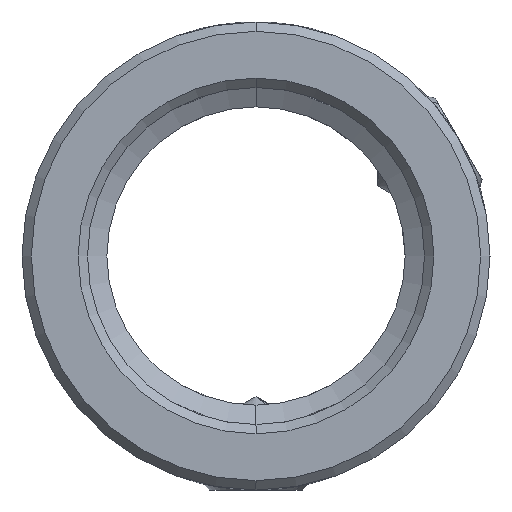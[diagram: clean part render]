
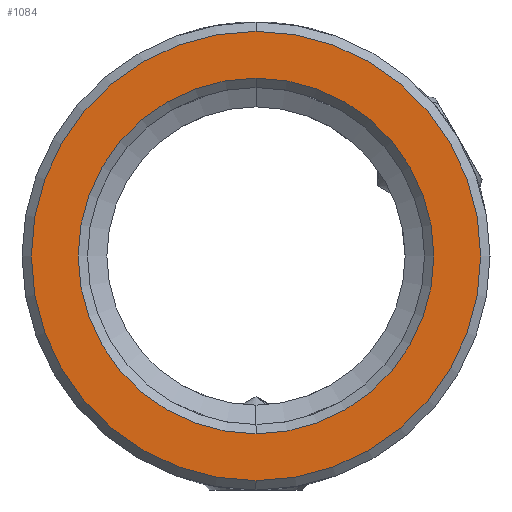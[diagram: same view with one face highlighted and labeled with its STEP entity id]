
A CAD part, left-side view. The second image highlights one B-rep face of the part: STEP entity #1084.
In plain terms, the highlighted planar face has unit normal (-1, 0, 0).
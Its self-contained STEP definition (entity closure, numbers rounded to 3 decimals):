
#949=AXIS2_PLACEMENT_3D('Circle Axis2P3D',#947,#948,$) ;
#1006=AXIS2_PLACEMENT_3D('Circle Axis2P3D',#1004,#1005,$) ;
#1060=AXIS2_PLACEMENT_3D('Plane Axis2P3D',#1057,#1058,#1059) ;
#1064=AXIS2_PLACEMENT_3D('Circle Axis2P3D',#1062,#1063,$) ;
#1073=AXIS2_PLACEMENT_3D('Circle Axis2P3D',#1071,#1072,$) ;
#944=CARTESIAN_POINT('Vertex',(0.,0.,-9.5)) ;
#947=CARTESIAN_POINT('Axis2P3D Location',(0.,0.,0.)) ;
#951=CARTESIAN_POINT('Vertex',(0.,0.,9.5)) ;
#1004=CARTESIAN_POINT('Axis2P3D Location',(0.,0.,0.)) ;
#1057=CARTESIAN_POINT('Axis2P3D Location',(0.,0.,9.)) ;
#1062=CARTESIAN_POINT('Axis2P3D Location',(0.,0.,0.)) ;
#1066=CARTESIAN_POINT('Vertex',(0.,0.,12.)) ;
#1068=CARTESIAN_POINT('Vertex',(0.,0.,-12.)) ;
#1071=CARTESIAN_POINT('Axis2P3D Location',(0.,0.,0.)) ;
#948=DIRECTION('Axis2P3D Direction',(-1.,0.,0.)) ;
#1005=DIRECTION('Axis2P3D Direction',(-1.,0.,0.)) ;
#1058=DIRECTION('Axis2P3D Direction',(-1.,0.,0.)) ;
#1059=DIRECTION('Axis2P3D XDirection',(0.,1.,0.)) ;
#1063=DIRECTION('Axis2P3D Direction',(-1.,0.,0.)) ;
#1072=DIRECTION('Axis2P3D Direction',(-1.,0.,0.)) ;
#1077=ORIENTED_EDGE('',*,*,#1070,.T.) ;
#1078=ORIENTED_EDGE('',*,*,#1075,.T.) ;
#1081=ORIENTED_EDGE('',*,*,#1008,.F.) ;
#1082=ORIENTED_EDGE('',*,*,#953,.F.) ;
#1083=FACE_BOUND('',#1080,.T.) ;
#1084=ADVANCED_FACE('\X2\FF8AFF9FFF70FF82\X0\ \X2\FF8EFF9EFF83FF9EFF68FF70\X0\',(#1079,#1083),#1061,.T.) ;
#950=CIRCLE('generated circle',#949,9.5) ;
#1007=CIRCLE('generated circle',#1006,9.5) ;
#1065=CIRCLE('generated circle',#1064,12.) ;
#1074=CIRCLE('generated circle',#1073,12.) ;
#953=EDGE_CURVE('',#945,#952,#950,.T.) ;
#1008=EDGE_CURVE('',#952,#945,#1007,.T.) ;
#1070=EDGE_CURVE('',#1067,#1069,#1065,.T.) ;
#1075=EDGE_CURVE('',#1069,#1067,#1074,.T.) ;
#1076=EDGE_LOOP('',(#1077,#1078)) ;
#1080=EDGE_LOOP('',(#1081,#1082)) ;
#1079=FACE_OUTER_BOUND('',#1076,.T.) ;
#1061=PLANE('',#1060) ;
#945=VERTEX_POINT('',#944) ;
#952=VERTEX_POINT('',#951) ;
#1067=VERTEX_POINT('',#1066) ;
#1069=VERTEX_POINT('',#1068) ;
